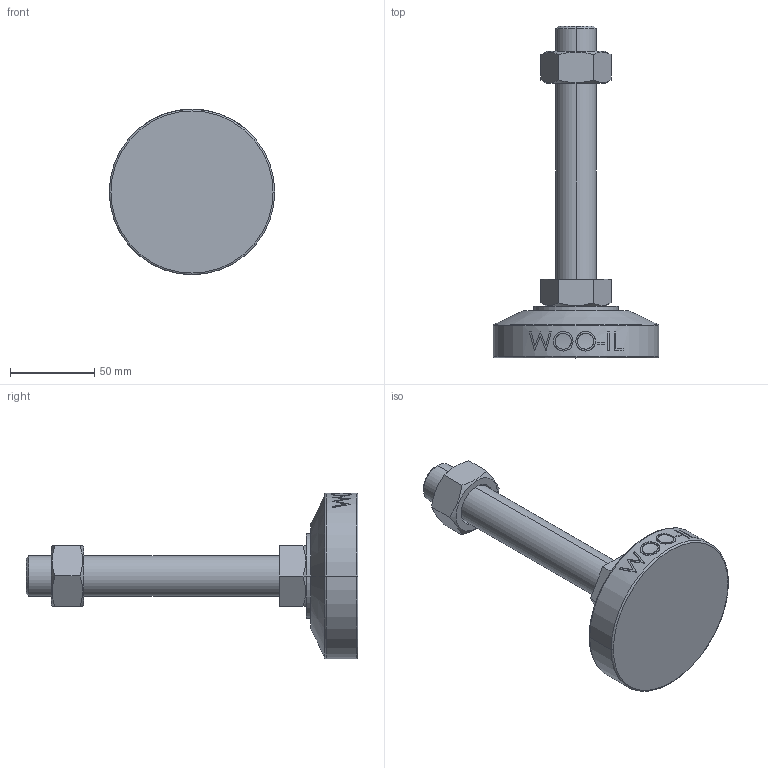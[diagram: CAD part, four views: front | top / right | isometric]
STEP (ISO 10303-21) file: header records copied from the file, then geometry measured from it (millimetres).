
FILE_DESCRIPTION (( 'STEP AP214' ), '1' );
FILE_NAME ('MFB98-M24-150.step', '2022-06-27T08:36:44', ( '' ), ( '' ), 'SwSTEP 2.0', 'SolidWorks 2019', '' );
FILE_SCHEMA (( 'AUTOMOTIVE_DESIGN' ));
Length unit declared in the file: millimetre
Products named in the file (1): MFB98-M24-150
Bounding box: 98 x 196.5 x 98 mm (x, y, z)
Volume: 293384.5 mm3; surface area: 42102.7 mm2
Topology: 3 solids, 3 shells, 97 faces, 229 edges, 148 vertices
Faces by surface type: plane 47, cylinder 16, bspline 16, cone 14, torus 4
Entity records: 4483 total; most frequent: CARTESIAN_POINT 2333, ORIENTED_EDGE 458, DIRECTION 385, EDGE_CURVE 229, VERTEX_POINT 148, AXIS2_PLACEMENT_3D 144, EDGE_LOOP 109, FACE_OUTER_BOUND 97
